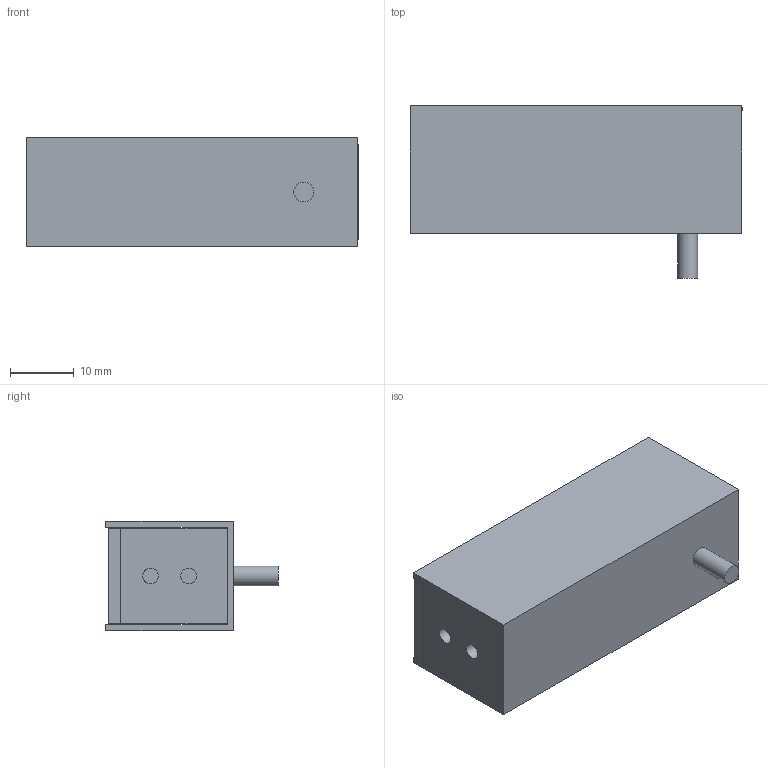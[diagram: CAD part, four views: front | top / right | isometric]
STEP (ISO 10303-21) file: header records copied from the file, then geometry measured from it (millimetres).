
FILE_DESCRIPTION(/* description */ (''),/* implementation_level */ '2;1');
FILE_NAME(/* name */ 'C:\#Vault-WorkDir\Konstruktions-Dokumente\Projekte\Zubehör allgemein\Falcon Beleuchtungen\153-00756_LB 44 xD-24-KFL5.stp',/* time_stamp */ '2018-07-26T09:32:23+02:00',/* author */ ('SensoPart'),/* organization */ ('SensoPart'),/* preprocessor_version */ 'ST-DEVELOPER v17',/* originating_system */ 'Autodesk Inventor 2018',/* authorisation */ '');
FILE_SCHEMA (('AUTOMOTIVE_DESIGN { 1 0 10303 214 3 1 1 }'));
Length unit declared in the file: millimetre
Products named in the file (1): GH-ENG-0026206_Shrinkwrap_1
Bounding box: 52 x 27 x 17.2 mm (x, y, z)
Volume: 17326 mm3; surface area: 8736.7 mm2
Topology: 1 solids, 1 shells, 38 faces, 99 edges, 70 vertices
Faces by surface type: plane 25, cylinder 9, cone 4
Full cylindrical faces by diameter (mm): 2 x2, 2.4 x2, 2.5 x4, 3.1 x1
Entity records: 1432 total; most frequent: CARTESIAN_POINT 382, DIRECTION 207, ORIENTED_EDGE 202, EDGE_CURVE 101, VERTEX_POINT 74, AXIS2_PLACEMENT_3D 73, LINE 61, VECTOR 61
